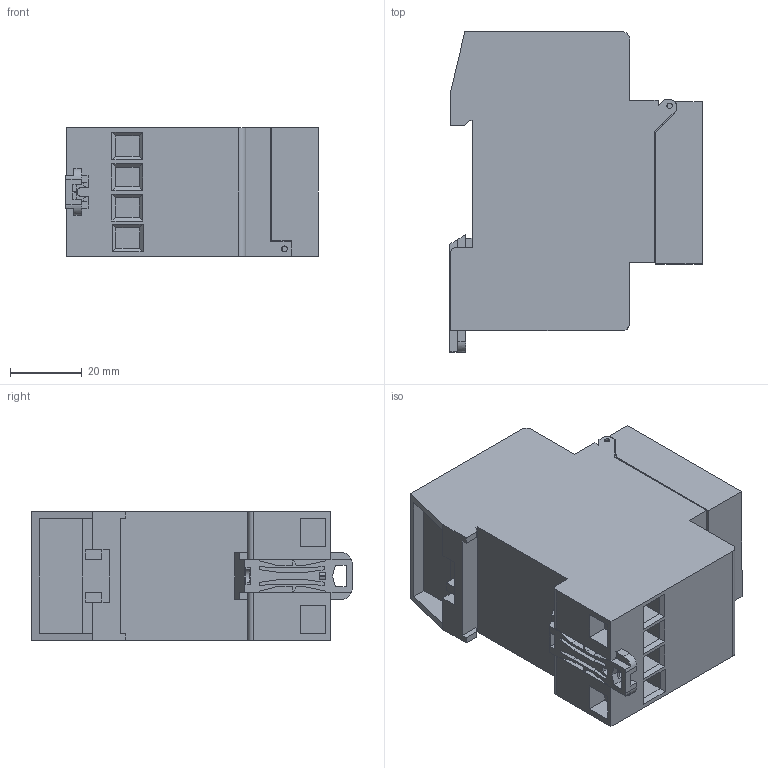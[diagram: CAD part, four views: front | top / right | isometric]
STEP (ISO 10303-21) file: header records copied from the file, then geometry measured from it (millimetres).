
FILE_DESCRIPTION (( 'STEP AP214' ), '1' );
FILE_NAME ('MAE-D16-002-A230__upr.step', '2014-09-05T07:29:13', ( '' ), ( '' ), 'SwSTEP 2.0', 'SolidWorks 2011', '' );
FILE_SCHEMA (( 'AUTOMOTIVE_DESIGN' ));
Length unit declared in the file: millimetre
Products named in the file (1): MAE-D16-002-A230__upr
Bounding box: 70.19 x 89 x 35.75 mm (x, y, z)
Volume: 136422.2 mm3; surface area: 37043.8 mm2
Topology: 3 solids, 3 shells, 711 faces, 1965 edges, 1283 vertices
Faces by surface type: plane 571, cylinder 96, torus 28, sphere 16
Entity records: 30378 total; most frequent: CARTESIAN_POINT 4350, ORIENTED_EDGE 3930, DIRECTION 3585, EDGE_CURVE 1965, LINE 1509, VECTOR 1509, VERTEX_POINT 1283, AXIS2_PLACEMENT_3D 1038
